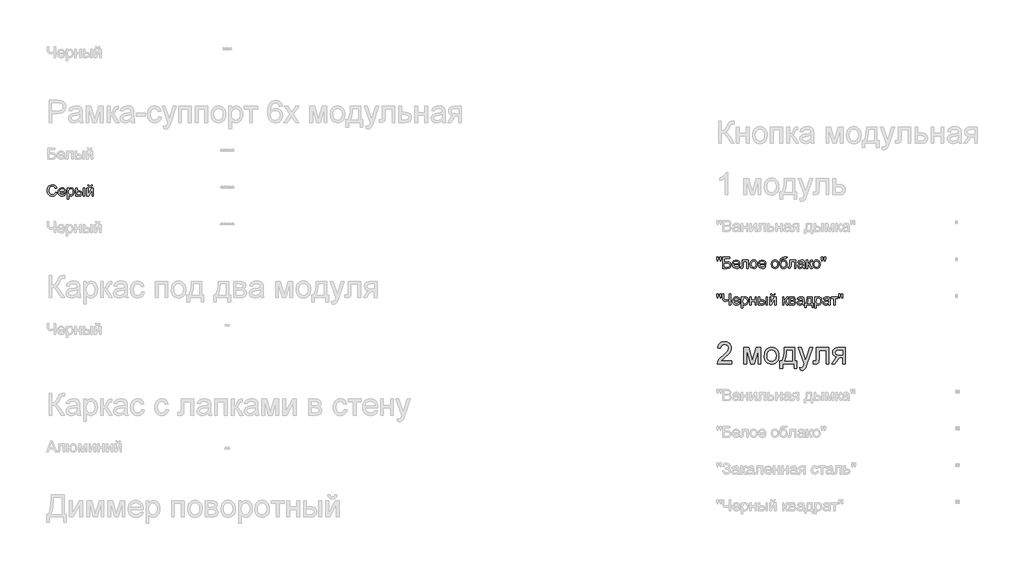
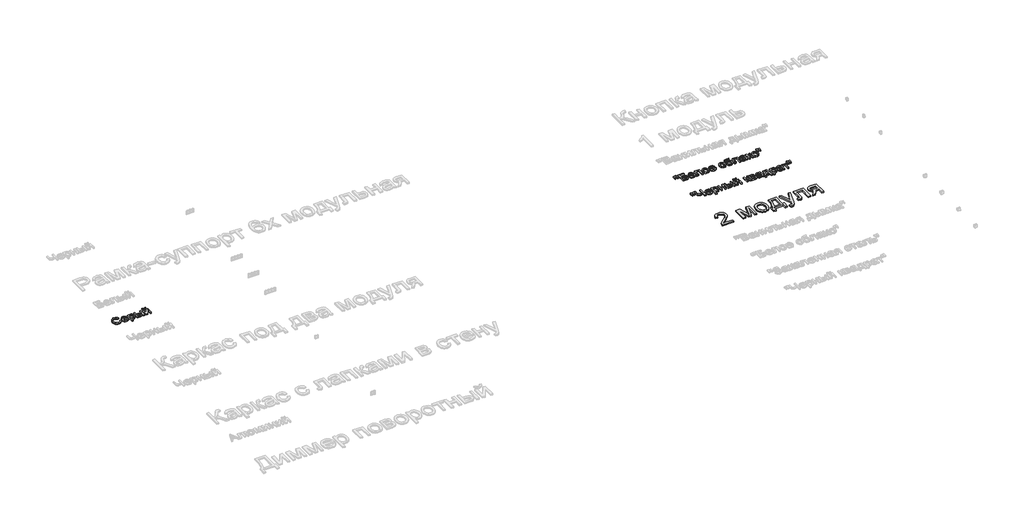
# One storey, part 41 of 168: 4 proxies.
"""IFC4 building model written with IfcOpenShell, lengths in millimetres."""

from ifc_helpers import new_model, si_unit, origin, origin_with_axes, place, context, project, spatial, polyline, outline, extrude, element, save

model = new_model("IFC4")

# Units and contexts
model_context = context("Model", 3, world=origin())
ifc_project = project(units=[si_unit("LENGTHUNIT", "METRE", prefix="MILLI")], contexts=[model_context])

# Site, building, storey
site = spatial("IfcSite", under=ifc_project)
building = spatial("IfcBuilding", under=site)
storey = spatial("IfcBuildingStorey", under=building, Name="Этаж 01", Elevation=0.0)

# Proxies
placement = place(None, origin())
element("IfcBuildingElementProxy", 1, Name="300 мм Arial 2", ObjectType="300 мм Arial 2", at=placement, inside=storey, context=model_context, shape_type="SweptSolid", body=[
    extrude(outline(polyline([(42178.0323041, -41744.967101), (42178.0323041, -41782.6382173), (41980.2589435, -41782.6382173), (41984.3056455, -41756.6657484), (41993.5946658, -41736.3678593), (42007.1879056, -41716.6769755), (42026.8511982, -41696.0663868), (42054.3503773, -41673.0093827), (42095.0013378, -41636.9017649), (42119.3919141, -41610.2487143), (42131.5872022, -41588.617253), (42135.6522983, -41567.5744029), (42131.8171285, -41548.7112536), (42120.3116191, -41533.0302836), (42102.6256922, -41522.4628732), (42080.2492698, -41518.9404031), (42056.7508074, -41522.3800998), (42038.4946633, -41532.6991898), (42026.7132424, -41549.0883326), (42022.6389493, -41570.7381881), (41984.967833, -41566.0292985), (41994.1005036, -41529.5905869), (42002.6468622, -41515.0546496), (42013.8465697, -41502.9743245), (42027.4421086, -41493.4783705), (42043.1759617, -41486.6955463), (42081.0586102, -41481.2692868), (42101.2484339, -41482.777603), (42119.2171701, -41487.3025516), (42134.9648188, -41494.8441325), (42148.4913799, -41505.4023457), (42159.3553951, -41518.1954421), (42167.1154059, -41532.4416724), (42171.7714124, -41548.1410365), (42173.3234146, -41565.2935345), (42171.6495515, -41583.3105552), (42166.6279623, -41601.0148763), (42157.7160209, -41619.0226999), (42144.3711016, -41637.9502286), (42123.0983252, -41660.5473801), (42090.4028129, -41689.5640725), (42047.0663138, -41725.800449), (42030.0701657, -41744.967101), (42178.0323041, -41744.967101)])), origin_with_axes(), (0.0, 0.0, 1.0), 20.0),
    extrude(outline(polyline([(42342.843438, -41561.320409), (42407.6642455, -41561.320409), (42457.6226204, -41738.4923779), (42511.4805445, -41561.320409), (42573.5790253, -41561.320409), (42573.5790253, -41782.6382173), (42535.907909, -41782.6382173), (42535.907909, -41604.4361788), (42481.7556793, -41782.6382173), (42432.3123392, -41782.6382173), (42380.5145543, -41595.9013165), (42380.5145543, -41782.6382173), (42342.843438, -41782.6382173), (42342.843438, -41561.320409)])), origin_with_axes(), (0.0, 0.0, 1.0), 20.0),
    extrude(outline(polyline([(42620.6679207, -41671.9793131), (42622.7050673, -41643.3167072), (42628.8165069, -41618.6180297), (42639.0022396, -41597.8832808), (42653.2622655, -41581.1124603), (42667.6188603, -41570.3932987), (42683.4653773, -41562.7367547), (42700.8018163, -41558.1428282), (42719.6281774, -41556.6115194), (42740.4112109, -41558.4762213), (42759.203083, -41564.0703269), (42776.0037939, -41573.3938362), (42790.8133435, -41586.4467493), (42802.9005663, -41602.7876076), (42811.5342969, -41621.9749529), (42816.7145352, -41644.0087852), (42818.4412813, -41668.8891044), (42815.3878608, -41706.9464968), (42806.2275991, -41735.9172039), (42791.2272107, -41757.6130446), (42770.6534101, -41773.8458376), (42746.2168486, -41783.9717895), (42719.6281774, -41787.3471068), (42698.5416413, -41785.4893027), (42679.5750252, -41779.9158905), (42662.7283291, -41770.6268701), (42648.001553, -41757.6222416), (42636.0430888, -41741.1227341), (42627.5013288, -41721.3490769), (42622.3762727, -41698.3012699), (42620.6679207, -41671.9793131)]), holes=[polyline([(42658.339037, -41671.9057367), (42662.6984387, -41705.9992006), (42675.7766436, -41730.2886094), (42695.4583303, -41744.8291452), (42719.6281774, -41749.6759905), (42743.6876599, -41744.8015541), (42763.3325584, -41730.1782448), (42776.4107634, -41705.5669393), (42780.770165, -41670.7285143), (42776.3831722, -41637.6283318), (42763.2221938, -41613.6700169), (42743.5497041, -41599.129481), (42719.6281774, -41594.2826358), (42695.4583303, -41599.1110869), (42675.7766436, -41613.5964405), (42662.6984387, -41637.8306669), (42658.339037, -41671.9057367)])]), origin_with_axes(), (0.0, 0.0, 1.0), 20.0),
    extrude(outline(polyline([(42893.7835139, -41561.320409), (43035.0502001, -41561.320409), (43035.0502001, -41744.967101), (43063.3035373, -41744.967101), (43063.3035373, -41843.8537813), (43025.632421, -41843.8537813), (43025.632421, -41782.6382173), (42870.2390662, -41782.6382173), (42870.2390662, -41843.8537813), (42832.5679499, -41843.8537813), (42832.5679499, -41744.967101), (42856.1123976, -41744.967101), (42873.2281074, -41714.0374222), (42885.2118634, -41673.1197473), (42892.0636656, -41622.2140762), (42893.7835139, -41561.320409)]), holes=[polyline([(42926.7457407, -41598.9915253), (42923.6555319, -41645.1147304), (42917.9165728, -41684.8183948), (42909.5288633, -41718.1025183), (42898.4924035, -41744.967101), (42997.3790838, -41744.967101), (42997.3790838, -41598.9915253), (42926.7457407, -41598.9915253)])]), origin_with_axes(), (0.0, 0.0, 1.0), 20.0),
    extrude(outline(polyline([(43105.6835431, -41867.398229), (43100.9746536, -41831.1250642), (43120.1045174, -41834.4360022), (43137.9835823, -41830.2789357), (43148.9464658, -41818.6906528), (43159.2471616, -41790.9523504), (43162.1902176, -41781.8288769), (43082.1390955, -41561.320409), (43121.8703509, -41561.320409), (43164.3239332, -41684.1929954), (43179.1127894, -41733.3420299), (43193.9016456, -41689.9319545), (43237.5324502, -41561.320409), (43276.9694001, -41561.320409), (43199.9349103, -41787.935718), (43179.9221298, -41837.0847526), (43169.6766162, -41852.7749197), (43158.0699393, -41863.6458326), (43144.5870641, -41869.991797), (43128.712956, -41872.1071185), (43105.6835431, -41867.398229)])), origin_with_axes(), (0.0, 0.0, 1.0), 20.0),
    extrude(outline(polyline([(43327.0013514, -41561.320409), (43496.5213748, -41561.320409), (43496.5213748, -41782.4174881), (43458.8502585, -41782.4174881), (43458.8502585, -41598.9915253), (43364.6724678, -41598.9915253), (43364.6724678, -41704.5736579), (43362.134082, -41753.2812341), (43357.3792072, -41764.3084969), (43348.1913544, -41773.8458376), (43334.2486268, -41780.4401224), (43315.2291276, -41782.6382173), (43284.6213456, -41780.7252309), (43284.6213456, -41744.967101), (43301.470341, -41744.967101), (43318.5032774, -41742.6494444), (43325.3090943, -41735.2918045), (43327.0013514, -41702.4399423), (43327.0013514, -41561.320409)])), origin_with_axes(), (0.0, 0.0, 1.0), 20.0),
    extrude(outline(polyline([(43722.5480727, -41561.320409), (43722.5480727, -41782.6382173), (43684.8769564, -41782.6382173), (43684.8769564, -41697.8782056), (43664.349141, -41697.8782056), (43636.3901094, -41702.6606715), (43625.2248908, -41713.0901261), (43610.1233349, -41734.8135579), (43580.1041641, -41782.6382173), (43536.5469359, -41782.6382173), (43574.365205, -41722.1584173), (43591.0670476, -41700.4533796), (43606.444515, -41690.8148713), (43580.6927753, -41682.9238025), (43562.5929812, -41667.9326112), (43551.8876151, -41647.993407), (43548.3191597, -41625.2582997), (43553.1935962, -41599.4697719), (43567.8169055, -41579.0523211), (43591.6740529, -41565.753387), (43624.2500036, -41561.320409), (43722.5480727, -41561.320409)]), holes=[polyline([(43684.8769564, -41598.9915253), (43635.212887, -41598.9915253), (43609.5623149, -41601.1712261), (43595.0033849, -41607.7103286), (43588.2435533, -41617.1740929), (43585.9902761, -41628.1277793), (43589.3104111, -41642.4843742), (43599.2708161, -41652.4447792), (43617.6741129, -41658.2665118), (43646.3229233, -41660.2070893), (43684.8769564, -41660.2070893), (43684.8769564, -41598.9915253)])]), origin_with_axes(), (0.0, 0.0, 1.0), 20.0),
])
element("IfcBuildingElementProxy", 2, Name="150", ObjectType="150", at=placement, inside=storey, context=model_context, shape_type="SweptSolid", body=[
    extrude(outline(polyline([(32988.5634029, -39445.9194149), (33007.398961, -39450.7754572), (32998.7077489, -39472.7242167), (32985.0685239, -39488.7592732), (32967.1526708, -39498.5679269), (32945.631574, -39501.8374781), (32923.7839821, -39499.3634717), (32906.4337475, -39491.9414525), (32893.1348133, -39479.8289378), (32883.4411228, -39463.283445), (32877.5228212, -39443.8316846), (32875.550054, -39423.0003666), (32877.7803386, -39401.0286144), (32884.4711923, -39382.0551005), (32895.2731274, -39366.6822316), (32909.8366559, -39355.5124146), (32927.1087156, -39348.7111962), (32946.0362442, -39346.4441234), (32966.6882197, -39349.3779823), (32983.7625428, -39358.179559), (32996.7257847, -39372.3062276), (33005.0445163, -39391.2153622), (32986.2089581, -39395.7035225), (32979.6790527, -39381.9677285), (32970.7579143, -39372.5453509), (32959.3351784, -39367.0960989), (32945.3004803, -39365.2796815), (32929.1228695, -39367.2938355), (32915.8331324, -39373.3362972), (32905.7485672, -39382.7724704), (32899.1864722, -39394.9677585), (32894.3856121, -39422.9635784), (32895.8065563, -39440.3643967), (32900.0693889, -39455.4107703), (32907.3350583, -39467.5278836), (32917.7645129, -39476.1409208), (32930.2679022, -39481.2866702), (32943.7553759, -39483.00192), (32959.4777326, -39480.6658693), (32972.5789302, -39473.6577173), (32982.4703573, -39462.0510404), (32988.5634029, -39445.9194149)])), origin_with_axes(), (0.0, 0.0, 1.0), 20.0),
    extrude(outline(polyline([(33108.4193569, -39466.5208066), (33126.8870331, -39468.8752514), (33120.2329675, -39482.7903878), (33109.6149734, -39493.1922513), (33095.2721741, -39499.6761714), (33077.4436929, -39501.8374781), (33055.3431821, -39498.1080744), (33038.3378368, -39486.9198632), (33027.494515, -39468.9994115), (33023.8800744, -39445.0732863), (33027.5313032, -39420.3424192), (33038.4849896, -39401.8471519), (33055.2604086, -39390.3140513), (33076.3768351, -39386.4696845), (33096.8356726, -39390.3048543), (33113.1834288, -39401.8103637), (33123.9025904, -39420.2688428), (33127.4756443, -39444.9629217), (33127.3652797, -39450.0396932), (33042.7156326, -39450.0396932), (33045.9759868, -39464.1387707), (33053.5497573, -39474.5038459), (33064.4804511, -39480.8774015), (33077.8115749, -39483.00192), (33096.2792511, -39479.0655826), (33108.4193569, -39466.5208066)]), holes=[polyline([(33042.7156326, -39431.2041351), (33108.6400861, -39431.2041351), (33106.0925033, -39421.2529271), (33101.0985052, -39414.1344105), (33090.1172277, -39407.5125346), (33076.3032587, -39405.3052426), (33063.6067314, -39407.0664777), (33053.1082989, -39412.3501828), (33045.8104399, -39420.586141), (33042.7156326, -39431.2041351)])]), origin_with_axes(), (0.0, 0.0, 1.0), 20.0),
    extrude(outline(polyline([(33146.3112024, -39541.8630392), (33146.3112024, -39388.8241292), (33165.1467606, -39388.8241292), (33165.1467606, -39407.2918054), (33178.1697832, -39391.6752147), (33195.7545426, -39386.4696845), (33208.4924567, -39388.2907003), (33219.6300841, -39393.753748), (33228.6983752, -39402.5277335), (33235.2282807, -39414.2815633), (33240.4889932, -39443.3074527), (33239.0036696, -39459.4160856), (33234.547699, -39473.8232642), (33227.2636355, -39485.7978232), (33217.2940334, -39494.6085969), (33205.6827579, -39500.0302578), (33193.4736742, -39501.8374781), (33177.0845313, -39496.9998299), (33165.1467606, -39484.7677536), (33165.1467606, -39541.8630392), (33146.3112024, -39541.8630392)]), holes=[polyline([(33165.1467606, -39445.0364981), (33167.1839071, -39461.9222817), (33173.2953468, -39473.7312937), (33182.3130542, -39480.6842634), (33193.069004, -39483.00192), (33203.9996978, -39480.60149), (33213.2473314, -39473.4001999), (33219.5519091, -39461.1589265), (33221.653435, -39443.6385465), (33219.6024929, -39426.8447334), (33213.4496665, -39414.8701745), (33204.4457547, -39407.6964756), (33193.8415562, -39405.3052426), (33183.195971, -39407.8482269), (33173.8471698, -39415.4771798), (33167.3218629, -39427.9529779), (33165.1467606, -39445.0364981)])]), origin_with_axes(), (0.0, 0.0, 1.0), 20.0),
    extrude(outline(polyline([(33365.2745659, -39388.8241292), (33384.1101241, -39388.8241292), (33384.1101241, -39499.4830334), (33365.2745659, -39499.4830334), (33365.2745659, -39388.8241292)])), origin_with_axes(), (0.0, 0.0, 1.0), 20.0),
    extrude(outline(polyline([(33261.6789961, -39388.8241292), (33280.5145543, -39388.8241292), (33280.5145543, -39428.8496903), (33303.8014846, -39428.8496903), (33323.9292282, -39431.2087336), (33338.8422446, -39438.2858635), (33348.0714841, -39449.5108629), (33351.1478973, -39464.3135146), (33348.5681248, -39477.7917912), (33340.8288074, -39489.1639434), (33327.4241072, -39496.9032609), (33307.8481865, -39499.4830334), (33261.6789961, -39499.4830334), (33261.6789961, -39388.8241292)]), holes=[polyline([(33280.5145543, -39480.6474752), (33299.8651472, -39480.6474752), (33324.8443347, -39476.6927438), (33330.4453381, -39471.6297678), (33332.3123392, -39464.3503028), (33326.7757152, -39452.76202), (33317.8959635, -39448.9544413), (33302.3299566, -39447.6852485), (33280.5145543, -39447.6852485), (33280.5145543, -39480.6474752)])]), origin_with_axes(), (0.0, 0.0, 1.0), 20.0),
    extrude(outline(polyline([(33473.5790253, -39348.7985681), (33487.7056939, -39348.7985681), (33484.666069, -39360.8604991), (33478.5638264, -39369.7494478), (33469.6748777, -39375.226291), (33458.2751343, -39377.0519054), (33445.9051022, -39375.2400866), (33436.3125792, -39369.8046301), (33429.7550827, -39360.9294769), (33426.4901299, -39348.7985681), (33440.6167986, -39348.7985681), (33445.9142993, -39359.4119637), (33456.5828771, -39362.9252368), (33468.2815246, -39359.5223283), (33473.5790253, -39348.7985681)])), origin_with_axes(), (0.0, 0.0, 1.0), 20.0),
    extrude(outline(polyline([(33412.3634613, -39388.8241292), (33431.1990195, -39388.8241292), (33431.1990195, -39473.2162589), (33477.4785745, -39388.8241292), (33501.8323626, -39388.8241292), (33501.8323626, -39499.4830334), (33482.9968044, -39499.4830334), (33482.9968044, -39415.6059385), (33437.011555, -39499.4830334), (33412.3634613, -39499.4830334), (33412.3634613, -39388.8241292)])), origin_with_axes(), (0.0, 0.0, 1.0), 20.0),
])
element("IfcBuildingElementProxy", 3, Name="150", ObjectType="150", at=placement, inside=storey, context=model_context, shape_type="SweptSolid", body=[
    extrude(outline(polyline([(41980.1485789, -40386.1059817), (41975.550054, -40357.0065159), (41975.550054, -40331.9537521), (41994.3856121, -40331.9537521), (41994.3856121, -40357.0065159), (41990.2653338, -40386.1059817), (41980.1485789, -40386.1059817)])), origin_with_axes(), (0.0, 0.0, 1.0), 20.0),
    extrude(outline(polyline([(42017.7093306, -40386.1059817), (42013.2211703, -40357.0065159), (42013.2211703, -40331.9537521), (42032.0567284, -40331.9537521), (42032.0567284, -40357.0065159), (42027.6421445, -40386.1059817), (42017.7093306, -40386.1059817)])), origin_with_axes(), (0.0, 0.0, 1.0), 20.0),
    extrude(outline(polyline([(42057.9556209, -40331.9537521), (42152.1334117, -40331.9537521), (42152.1334117, -40350.7893102), (42076.791179, -40350.7893102), (42076.791179, -40395.5237608), (42112.0710624, -40395.5237608), (42143.157091, -40399.3497336), (42153.5589544, -40404.8771606), (42161.6615553, -40413.807496), (42166.8762826, -40425.3038083), (42168.614525, -40438.5291661), (42163.6665122, -40459.9950805), (42148.8960501, -40476.310647), (42135.6247071, -40481.0563247), (42115.4555767, -40482.6382173), (42057.9556209, -40482.6382173), (42057.9556209, -40331.9537521)]), holes=[polyline([(42076.791179, -40463.8026591), (42117.1478339, -40463.8026591), (42131.4124583, -40462.2483577), (42141.6119866, -40457.5854534), (42147.7372218, -40449.8139463), (42149.7789669, -40438.9338363), (42145.1068655, -40424.1817682), (42132.102237, -40416.3090936), (42103.7201411, -40414.359319), (42076.791179, -40414.359319), (42076.791179, -40463.8026591)])]), origin_with_axes(), (0.0, 0.0, 1.0), 20.0),
    extrude(outline(polyline([(42269.6349209, -40449.6759905), (42288.1025971, -40452.0304353), (42281.4485315, -40465.9455717), (42270.8305374, -40476.3474352), (42256.4877381, -40482.8313553), (42238.6592569, -40484.992662), (42216.5587461, -40481.2632583), (42199.5534008, -40470.0750471), (42188.710079, -40452.1545955), (42185.0956384, -40428.2284702), (42188.7468672, -40403.4976031), (42199.7005536, -40385.0023358), (42216.4759726, -40373.4692352), (42237.5923991, -40369.6248684), (42258.0512366, -40373.4600382), (42274.3989927, -40384.9655476), (42285.1181544, -40403.4240267), (42288.6912083, -40428.1181056), (42288.5808437, -40433.1948771), (42203.9311966, -40433.1948771), (42207.1915508, -40447.2939546), (42214.7653213, -40457.6590298), (42225.6960151, -40464.0325854), (42239.0271389, -40466.1571039), (42257.4948151, -40462.2207665), (42269.6349209, -40449.6759905)]), holes=[polyline([(42203.9311966, -40414.359319), (42269.8556501, -40414.359319), (42267.3080673, -40404.408111), (42262.3140692, -40397.2895944), (42251.3327917, -40390.6677185), (42237.5188227, -40388.4604265), (42224.8222954, -40390.2216616), (42214.3238629, -40395.5053667), (42207.0260039, -40403.7413249), (42203.9311966, -40414.359319)])]), origin_with_axes(), (0.0, 0.0, 1.0), 20.0),
    extrude(outline(polyline([(42316.9445455, -40371.9793131), (42401.7045572, -40371.9793131), (42401.7045572, -40482.5278527), (42382.868999, -40482.5278527), (42382.868999, -40390.8148713), (42335.7801036, -40390.8148713), (42335.7801036, -40443.6059376), (42334.5109108, -40467.9597257), (42327.539547, -40478.2420274), (42311.0584336, -40482.6382173), (42295.7545426, -40481.6817241), (42295.7545426, -40463.8026591), (42304.1790403, -40463.8026591), (42312.6955084, -40462.6438308), (42316.0984169, -40458.9650109), (42316.9445455, -40442.5390798), (42316.9445455, -40371.9793131)])), origin_with_axes(), (0.0, 0.0, 1.0), 20.0),
    extrude(outline(polyline([(42425.2490049, -40427.3087652), (42429.323298, -40400.6281235), (42441.5461773, -40381.8753388), (42456.6477332, -40372.687486), (42474.7291332, -40369.6248684), (42494.516586, -40373.3542721), (42510.3217163, -40384.5424833), (42520.6821929, -40402.3065851), (42524.1356852, -40425.7636608), (42522.6089749, -40444.792357), (42518.0288441, -40459.2777106), (42510.5286499, -40470.1256309), (42500.2417496, -40478.2420274), (42488.0234688, -40483.3050034), (42474.7291332, -40484.992662), (42454.7025571, -40481.2770539), (42438.915821, -40470.1302294), (42428.6657089, -40451.9936471), (42425.2490049, -40427.3087652)]), holes=[polyline([(42444.084563, -40427.271977), (42446.2642638, -40444.318709), (42452.8033663, -40456.4634133), (42462.6442097, -40463.7336813), (42474.7291332, -40466.1571039), (42486.7588745, -40463.7198857), (42496.5813237, -40456.408231), (42503.1204262, -40444.1025783), (42505.300127, -40426.6833658), (42503.1066306, -40410.1332746), (42496.5261414, -40398.1541171), (42486.6898966, -40390.8838492), (42474.7291332, -40388.4604265), (42462.6442097, -40390.8746521), (42452.8033663, -40398.1173289), (42446.2642638, -40410.2344421), (42444.084563, -40427.271977)])]), origin_with_axes(), (0.0, 0.0, 1.0), 20.0),
    extrude(outline(polyline([(42622.8016363, -40449.6759905), (42641.2693124, -40452.0304353), (42634.6152469, -40465.9455717), (42623.9972528, -40476.3474352), (42609.6544535, -40482.8313553), (42591.8259723, -40484.992662), (42569.7254614, -40481.2632583), (42552.7201162, -40470.0750471), (42541.8767944, -40452.1545955), (42538.2623538, -40428.2284702), (42541.9135826, -40403.4976031), (42552.867269, -40385.0023358), (42569.642688, -40373.4692352), (42590.7591145, -40369.6248684), (42611.217952, -40373.4600382), (42627.5657081, -40384.9655476), (42638.2848698, -40403.4240267), (42641.8579236, -40428.1181056), (42641.747559, -40433.1948771), (42557.0979119, -40433.1948771), (42560.3582661, -40447.2939546), (42567.9320367, -40457.6590298), (42578.8627305, -40464.0325854), (42592.1938543, -40466.1571039), (42610.6615304, -40462.2207665), (42622.8016363, -40449.6759905)]), holes=[polyline([(42557.0979119, -40414.359319), (42623.0223655, -40414.359319), (42620.4747827, -40404.408111), (42615.4807846, -40397.2895944), (42604.499507, -40390.6677185), (42590.6855381, -40388.4604265), (42577.9890107, -40390.2216616), (42567.4905783, -40395.5053667), (42560.1927192, -40403.7413249), (42557.0979119, -40414.359319)])]), origin_with_axes(), (0.0, 0.0, 1.0), 20.0),
    extrude(outline(polyline([(42714.8457115, -40427.3087652), (42718.9200046, -40400.6281235), (42731.1428839, -40381.8753388), (42746.2444398, -40372.687486), (42764.3258398, -40369.6248684), (42784.1132926, -40373.3542721), (42799.9184229, -40384.5424833), (42810.2788995, -40402.3065851), (42813.7323918, -40425.7636608), (42812.2056815, -40444.792357), (42807.6255507, -40459.2777106), (42800.1253565, -40470.1256309), (42789.8384562, -40478.2420274), (42777.6201754, -40483.3050034), (42764.3258398, -40484.992662), (42744.2992637, -40481.2770539), (42728.5125276, -40470.1302294), (42718.2624155, -40451.9936471), (42714.8457115, -40427.3087652)]), holes=[polyline([(42733.6812696, -40427.271977), (42735.8609704, -40444.318709), (42742.4000729, -40456.4634133), (42752.2409163, -40463.7336813), (42764.3258398, -40466.1571039), (42776.3555811, -40463.7198857), (42786.1780303, -40456.408231), (42792.7171328, -40444.1025783), (42794.8968336, -40426.6833658), (42792.7033372, -40410.1332746), (42786.122848, -40398.1541171), (42776.2866032, -40390.8838492), (42764.3258398, -40388.4604265), (42752.2409163, -40390.8746521), (42742.4000729, -40398.1173289), (42735.8609704, -40410.2344421), (42733.6812696, -40427.271977)])]), origin_with_axes(), (0.0, 0.0, 1.0), 20.0),
    extrude(outline(polyline([(42912.6190721, -40329.5993073), (42929.1001855, -40329.5993073), (42924.2441431, -40344.296193), (42914.6424231, -40349.6120878), (42891.576222, -40350.7893102), (42860.5085875, -40355.1303178), (42853.3808738, -40360.7773064), (42848.5892108, -40369.0362572), (42844.560903, -40393.6475626), (42860.8764695, -40375.6213449), (42870.7954878, -40371.1239875), (42881.9009255, -40369.6248684), (42901.4998388, -40373.4370455), (42917.401538, -40384.8735771), (42927.9413572, -40402.8124229), (42931.4546302, -40426.1315428), (42929.7117893, -40444.1117753), (42924.4832664, -40458.5419466), (42907.9469707, -40478.0948746), (42896.6529935, -40483.2682152), (42881.9009255, -40484.992662), (42864.9001788, -40482.7715745), (42852.1576662, -40476.1083119), (42842.7812738, -40465.9823599), (42835.8788879, -40453.3732046), (42831.6298508, -40434.3858951), (42830.2135052, -40405.1254809), (42833.786559, -40368.9856734), (42844.5057207, -40346.9449434), (42862.6377045, -40335.7015499), (42888.449225, -40331.9537521), (42909.4184987, -40331.5306878), (42912.6190721, -40329.5993073)]), holes=[polyline([(42912.6190721, -40425.5429316), (42910.577327, -40410.7218857), (42904.4520918, -40398.8530929), (42894.6112484, -40391.0585931), (42881.4226789, -40388.4604265), (42867.6730893, -40391.2057459), (42857.473561, -40399.4417041), (42851.1551877, -40412.2669901), (42849.0490633, -40428.7802932), (42851.3759169, -40444.7877585), (42858.3564778, -40456.5369897), (42868.7491442, -40463.7520754), (42881.3123143, -40466.1571039), (42893.9398638, -40463.3749963), (42903.937057, -40455.0286735), (42910.4485683, -40442.0930229), (42912.6190721, -40425.5429316)])]), origin_with_axes(), (0.0, 0.0, 1.0), 20.0),
    extrude(outline(polyline([(42964.416857, -40371.9793131), (43049.1768687, -40371.9793131), (43049.1768687, -40482.5278527), (43030.3413105, -40482.5278527), (43030.3413105, -40390.8148713), (42983.2524152, -40390.8148713), (42983.2524152, -40443.6059376), (42981.9832223, -40467.9597257), (42975.0118585, -40478.2420274), (42958.5307451, -40482.6382173), (42943.2268541, -40481.6817241), (42943.2268541, -40463.8026591), (42951.6513518, -40463.8026591), (42960.16782, -40462.6438308), (42963.5707284, -40458.9650109), (42964.416857, -40442.5390798), (42964.416857, -40371.9793131)])), origin_with_axes(), (0.0, 0.0, 1.0), 20.0),
    extrude(outline(polyline([(43148.063549, -40468.5115487), (43129.7982079, -40481.2770539), (43109.6198805, -40484.992662), (43093.8791296, -40482.7577789), (43082.2678542, -40476.0531296), (43075.1079508, -40465.8719954), (43072.7213164, -40453.2076577), (43076.3265599, -40438.3084369), (43085.7995213, -40427.4927062), (43098.9880908, -40421.3122887), (43115.2852632, -40418.4795973), (43147.9531844, -40412.0048742), (43148.063549, -40407.8110195), (43146.766765, -40399.4049159), (43142.8764129, -40393.90508), (43134.1760037, -40389.8215899), (43122.0542919, -40388.4604265), (43102.9980046, -40392.0840642), (43093.9113193, -40404.9415399), (43075.0757612, -40402.5870951), (43083.2243473, -40384.1929954), (43099.6318843, -40373.4140529), (43124.4823131, -40369.6248684), (43147.3093909, -40372.9725945), (43160.2036548, -40381.3786981), (43165.9794022, -40394.1625974), (43166.8991071, -40410.6437108), (43166.8991071, -40434.0777939), (43167.8556003, -40466.8008974), (43171.6079967, -40482.6382173), (43152.7724385, -40482.6382173), (43148.063549, -40468.5115487)]), holes=[polyline([(43148.063549, -40430.8404324), (43117.6764962, -40436.6161797), (43101.4712943, -40439.6696002), (43094.1320485, -40444.6360072), (43091.5568745, -40451.8832825), (43097.167075, -40462.0736138), (43113.6297942, -40466.1571039), (43132.6860816, -40461.6505495), (43144.9733402, -40450.7428483), (43147.9531844, -40436.1747213), (43148.063549, -40430.8404324)])]), origin_with_axes(), (0.0, 0.0, 1.0), 20.0),
    extrude(outline(polyline([(43192.7979996, -40371.9793131), (43211.6335578, -40371.9793131), (43211.6335578, -40419.0682085), (43224.2519102, -40415.6836942), (43234.5893943, -40395.9652192), (43243.1794388, -40378.9506769), (43250.7578079, -40373.4140529), (43264.5349887, -40371.9793131), (43268.1402322, -40371.9793131), (43268.1402322, -40390.9252359), (43263.0634607, -40390.8148713), (43253.8664108, -40392.8014341), (43247.3916877, -40405.1990573), (43239.7949245, -40418.608356), (43229.1447407, -40425.1750496), (43241.0273292, -40432.5050984), (43252.6891884, -40447.9469451), (43272.8491218, -40482.6382173), (43251.4383896, -40482.6382173), (43231.6831265, -40448.6827091), (43221.7503126, -40434.3169172), (43211.6335578, -40430.8404324), (43211.6335578, -40482.6382173), (43192.7979996, -40482.6382173), (43192.7979996, -40371.9793131)])), origin_with_axes(), (0.0, 0.0, 1.0), 20.0),
    extrude(outline(polyline([(43279.9124561, -40427.3087652), (43283.9867492, -40400.6281235), (43296.2096285, -40381.8753388), (43311.3111844, -40372.687486), (43329.3925844, -40369.6248684), (43349.1800372, -40373.3542721), (43364.9851674, -40384.5424833), (43375.3456441, -40402.3065851), (43378.7991364, -40425.7636608), (43377.2724261, -40444.792357), (43372.6922952, -40459.2777106), (43365.1921011, -40470.1256309), (43354.9052008, -40478.2420274), (43342.68692, -40483.3050034), (43329.3925844, -40484.992662), (43309.3660083, -40481.2770539), (43293.5792722, -40470.1302294), (43283.3291601, -40451.9936471), (43279.9124561, -40427.3087652)]), holes=[polyline([(43298.7480142, -40427.271977), (43300.927715, -40444.318709), (43307.4668175, -40456.4634133), (43317.3076609, -40463.7336813), (43329.3925844, -40466.1571039), (43341.4223257, -40463.7198857), (43351.2447749, -40456.408231), (43357.7838774, -40444.1025783), (43359.9635782, -40426.6833658), (43357.7700818, -40410.1332746), (43351.1895926, -40398.1541171), (43341.3533478, -40390.8838492), (43329.3925844, -40388.4604265), (43317.3076609, -40390.8746521), (43307.4668175, -40398.1173289), (43300.927715, -40410.2344421), (43298.7480142, -40427.271977)])]), origin_with_axes(), (0.0, 0.0, 1.0), 20.0),
    extrude(outline(polyline([(43399.8787747, -40386.1059817), (43395.2802498, -40357.0065159), (43395.2802498, -40331.9537521), (43414.1158079, -40331.9537521), (43414.1158079, -40357.0065159), (43409.9955296, -40386.1059817), (43399.8787747, -40386.1059817)])), origin_with_axes(), (0.0, 0.0, 1.0), 20.0),
    extrude(outline(polyline([(43437.4395264, -40386.1059817), (43432.9513661, -40357.0065159), (43432.9513661, -40331.9537521), (43451.7869242, -40331.9537521), (43451.7869242, -40357.0065159), (43447.3723403, -40386.1059817), (43437.4395264, -40386.1059817)])), origin_with_axes(), (0.0, 0.0, 1.0), 20.0),
])
element("IfcBuildingElementProxy", 4, Name="150", ObjectType="150", at=placement, inside=storey, context=model_context, shape_type="SweptSolid", body=[
    extrude(outline(polyline([(41980.1485789, -40886.1059817), (41975.550054, -40857.0065159), (41975.550054, -40831.9537521), (41994.3856121, -40831.9537521), (41994.3856121, -40857.0065159), (41990.2653338, -40886.1059817), (41980.1485789, -40886.1059817)])), origin_with_axes(), (0.0, 0.0, 1.0), 20.0),
    extrude(outline(polyline([(42017.7093306, -40886.1059817), (42013.2211703, -40857.0065159), (42013.2211703, -40831.9537521), (42032.0567284, -40831.9537521), (42032.0567284, -40857.0065159), (42027.6421445, -40886.1059817), (42017.7093306, -40886.1059817)])), origin_with_axes(), (0.0, 0.0, 1.0), 20.0),
    extrude(outline(polyline([(42163.9056355, -40982.6382173), (42145.0700773, -40982.6382173), (42145.0700773, -40922.3055701), (42120.0908899, -40930.4725504), (42098.4226404, -40933.1948771), (42083.7395502, -40931.3324745), (42070.886673, -40925.7452667), (42060.926268, -40917.2931779), (42054.9205944, -40906.8361322), (42050.8922866, -40876.8353555), (42050.8922866, -40831.9537521), (42069.7278447, -40831.9537521), (42069.7278447, -40874.2969697), (42071.990319, -40894.6638367), (42078.7777418, -40906.615403), (42088.7381468, -40912.42334), (42100.5195677, -40914.359319), (42122.2521966, -40912.0232683), (42145.0700773, -40905.0151163), (42145.0700773, -40831.9537521), (42163.9056355, -40831.9537521), (42163.9056355, -40982.6382173)])), origin_with_axes(), (0.0, 0.0, 1.0), 20.0),
    extrude(outline(polyline([(42271.9893657, -40949.6759905), (42290.4570418, -40952.0304353), (42283.8029762, -40965.9455717), (42273.1849822, -40976.3474352), (42258.8421829, -40982.8313553), (42241.0137017, -40984.992662), (42218.9131908, -40981.2632583), (42201.9078456, -40970.0750471), (42191.0645238, -40952.1545955), (42187.4500832, -40928.2284702), (42191.101312, -40903.4976031), (42202.0549984, -40885.0023358), (42218.8304174, -40873.4692352), (42239.9468439, -40869.6248684), (42260.4056814, -40873.4600382), (42276.7534375, -40884.9655476), (42287.4725992, -40903.4240267), (42291.045653, -40928.1181056), (42290.9352884, -40933.1948771), (42206.2856413, -40933.1948771), (42209.5459955, -40947.2939546), (42217.1197661, -40957.6590298), (42228.0504599, -40964.0325854), (42241.3815837, -40966.1571039), (42259.8492598, -40962.2207665), (42271.9893657, -40949.6759905)]), holes=[polyline([(42206.2856413, -40914.359319), (42272.2100949, -40914.359319), (42269.6625121, -40904.408111), (42264.668514, -40897.2895944), (42253.6872364, -40890.6677185), (42239.8732675, -40888.4604265), (42227.1767401, -40890.2216616), (42216.6783077, -40895.5053667), (42209.3804486, -40903.7413249), (42206.2856413, -40914.359319)])]), origin_with_axes(), (0.0, 0.0, 1.0), 20.0),
    extrude(outline(polyline([(42309.8812112, -41025.0182231), (42309.8812112, -40871.9793131), (42328.7167693, -40871.9793131), (42328.7167693, -40890.4469893), (42341.739792, -40874.8303986), (42359.3245513, -40869.6248684), (42372.0624654, -40871.4458842), (42383.2000928, -40876.9089319), (42392.268384, -40885.6829175), (42398.7982894, -40897.4367472), (42404.0590019, -40926.4626366), (42402.5736784, -40942.5712695), (42398.1177077, -40956.9784481), (42390.8336442, -40968.9530071), (42380.8640422, -40977.7637808), (42369.2527667, -40983.1854417), (42357.043683, -40984.992662), (42340.6545401, -40980.1550138), (42328.7167693, -40967.9229375), (42328.7167693, -41025.0182231), (42309.8812112, -41025.0182231)]), holes=[polyline([(42328.7167693, -40928.191682), (42330.7539159, -40945.0774656), (42336.8653555, -40956.8864776), (42345.8830629, -40963.8394473), (42356.6390128, -40966.1571039), (42367.5697066, -40963.7566739), (42376.8173402, -40956.5553838), (42383.1219179, -40944.3141104), (42385.2234438, -40926.7937304), (42383.1725017, -40909.9999173), (42377.0196753, -40898.0253584), (42368.0157635, -40890.8516595), (42357.411565, -40888.4604265), (42346.7659797, -40891.0034108), (42337.4171785, -40898.6323637), (42330.8918716, -40911.1081618), (42328.7167693, -40928.191682)])]), origin_with_axes(), (0.0, 0.0, 1.0), 20.0),
    extrude(outline(polyline([(42425.2490049, -40871.9793131), (42444.084563, -40871.9793131), (42444.084563, -40914.359319), (42493.5279032, -40914.359319), (42493.5279032, -40871.9793131), (42512.3634613, -40871.9793131), (42512.3634613, -40982.6382173), (42493.5279032, -40982.6382173), (42493.5279032, -40933.1948771), (42444.084563, -40933.1948771), (42444.084563, -40982.6382173), (42425.2490049, -40982.6382173), (42425.2490049, -40871.9793131)])), origin_with_axes(), (0.0, 0.0, 1.0), 20.0),
    extrude(outline(polyline([(42644.2123684, -40871.9793131), (42663.0479266, -40871.9793131), (42663.0479266, -40982.6382173), (42644.2123684, -40982.6382173), (42644.2123684, -40871.9793131)])), origin_with_axes(), (0.0, 0.0, 1.0), 20.0),
    extrude(outline(polyline([(42540.6167986, -40871.9793131), (42559.4523567, -40871.9793131), (42559.4523567, -40912.0048742), (42582.739287, -40912.0048742), (42602.8670307, -40914.3639175), (42617.780047, -40921.4410474), (42627.0092866, -40932.6660468), (42630.0856998, -40947.4686985), (42627.5059273, -40960.9469751), (42619.7666098, -40972.3191273), (42606.3619096, -40980.0584448), (42586.785989, -40982.6382173), (42540.6167986, -40982.6382173), (42540.6167986, -40871.9793131)]), holes=[polyline([(42559.4523567, -40963.8026591), (42578.8029497, -40963.8026591), (42603.7821371, -40959.8479277), (42609.3831405, -40954.7849517), (42611.2501416, -40947.5054867), (42605.7135176, -40935.9172039), (42596.8337659, -40932.1096252), (42581.267759, -40930.8404324), (42559.4523567, -40930.8404324), (42559.4523567, -40963.8026591)])]), origin_with_axes(), (0.0, 0.0, 1.0), 20.0),
    extrude(outline(polyline([(42691.3012638, -40871.9793131), (42710.1368219, -40871.9793131), (42710.1368219, -40956.3714428), (42756.4163769, -40871.9793131), (42780.770165, -40871.9793131), (42780.770165, -40982.6382173), (42761.9346069, -40982.6382173), (42761.9346069, -40898.7611224), (42715.9493575, -40982.6382173), (42691.3012638, -40982.6382173), (42691.3012638, -40871.9793131)])), origin_with_axes(), (0.0, 0.0, 1.0), 20.0),
    extrude(outline(polyline([(42752.5168278, -40831.9537521), (42766.6434964, -40831.9537521), (42763.6038714, -40844.015683), (42757.5016288, -40852.9046317), (42748.6126801, -40858.3814749), (42737.2129368, -40860.2070893), (42724.8429047, -40858.3952705), (42715.2503817, -40852.959814), (42708.6928851, -40844.0846608), (42705.4279324, -40831.9537521), (42719.554601, -40831.9537521), (42724.8521017, -40842.5671476), (42735.5206796, -40846.0804207), (42747.219327, -40842.6775122), (42752.5168278, -40831.9537521)])), origin_with_axes(), (0.0, 0.0, 1.0), 20.0),
    extrude(outline(polyline([(42867.8846215, -40871.9793131), (42886.7201796, -40871.9793131), (42886.7201796, -40919.0682085), (42899.3385321, -40915.6836942), (42909.6760161, -40895.9652192), (42918.2660607, -40878.9506769), (42925.8444298, -40873.4140529), (42939.6216105, -40871.9793131), (42943.2268541, -40871.9793131), (42943.2268541, -40890.9252359), (42938.1500825, -40890.8148713), (42928.9530327, -40892.8014341), (42922.4783096, -40905.1990573), (42914.8815464, -40918.608356), (42904.2313626, -40925.1750496), (42916.113951, -40932.5050984), (42927.7758103, -40947.9469451), (42947.9357436, -40982.6382173), (42926.5250115, -40982.6382173), (42906.7697484, -40948.6827091), (42896.8369345, -40934.3169172), (42886.7201796, -40930.8404324), (42886.7201796, -40982.6382173), (42867.8846215, -40982.6382173), (42867.8846215, -40871.9793131)])), origin_with_axes(), (0.0, 0.0, 1.0), 20.0),
    extrude(outline(polyline([(42959.7079675, -40871.9793131), (43001.2050565, -40871.9793131), (43023.9585579, -40874.4993048), (43036.7608514, -40883.7331429), (43042.1135344, -40899.8279802), (43038.8761728, -40912.9061851), (43029.1273, -40922.2319937), (43041.7824406, -40932.440719), (43046.8224239, -40950.1910253), (43043.6310476, -40964.5476202), (43036.0434815, -40974.655178), (43024.0321343, -40980.6424575), (43007.569415, -40982.6382173), (42959.7079675, -40982.6382173), (42959.7079675, -40871.9793131)]), holes=[polyline([(42978.5435256, -40914.359319), (42997.1583546, -40914.359319), (43012.5174279, -40913.4028258), (43019.9854324, -40909.576853), (43023.2779762, -40902.6606715), (43021.8340394, -40897.0412741), (43017.5022289, -40893.4268335), (42997.7469658, -40890.8148713), (42978.5435256, -40890.8148713), (42978.5435256, -40914.359319)]), polyline([(42978.5435256, -40963.8026591), (43001.6465149, -40963.8026591), (43022.137542, -40960.3997507), (43026.377382, -40955.759839), (43027.9868658, -40948.6459209), (43024.7678983, -40939.5776297), (43016.3801888, -40934.2985231), (42999.8071049, -40933.1948771), (42978.5435256, -40933.1948771), (42978.5435256, -40963.8026591)])]), origin_with_axes(), (0.0, 0.0, 1.0), 20.0),
    extrude(outline(polyline([(43141.0002147, -40968.5115487), (43122.7348736, -40981.2770539), (43102.5565462, -40984.992662), (43086.8157953, -40982.7577789), (43075.2045198, -40976.0531296), (43068.0446165, -40965.8719954), (43065.6579821, -40953.2076577), (43069.2632256, -40938.3084369), (43078.736187, -40927.4927062), (43091.9247565, -40921.3122887), (43108.2219289, -40918.4795973), (43140.8898501, -40912.0048742), (43141.0002147, -40907.8110195), (43139.7034307, -40899.4049159), (43135.8130786, -40893.90508), (43127.1126694, -40889.8215899), (43114.9909576, -40888.4604265), (43095.9346703, -40892.0840642), (43086.847985, -40904.9415399), (43068.0124268, -40902.5870951), (43076.161013, -40884.1929954), (43092.56855, -40873.4140529), (43117.4189788, -40869.6248684), (43140.2460566, -40872.9725945), (43153.1403205, -40881.3786981), (43158.9160679, -40894.1625974), (43159.8357728, -40910.6437108), (43159.8357728, -40934.0777939), (43160.792266, -40966.8008974), (43164.5446624, -40982.6382173), (43145.7091042, -40982.6382173), (43141.0002147, -40968.5115487)]), holes=[polyline([(43141.0002147, -40930.8404324), (43110.6131619, -40936.6161797), (43094.40796, -40939.6696002), (43087.0687142, -40944.6360072), (43084.4935402, -40951.8832825), (43090.1037407, -40962.0736138), (43106.5664599, -40966.1571039), (43125.6227473, -40961.6505495), (43137.9100059, -40950.7428483), (43140.8898501, -40936.1747213), (43141.0002147, -40930.8404324)])]), origin_with_axes(), (0.0, 0.0, 1.0), 20.0),
    extrude(outline(polyline([(43202.2157787, -40871.9793131), (43272.8491218, -40871.9793131), (43272.8491218, -40963.8026591), (43286.9757904, -40963.8026591), (43286.9757904, -41013.2459993), (43268.1402322, -41013.2459993), (43268.1402322, -40982.6382173), (43190.4435548, -40982.6382173), (43190.4435548, -41013.2459993), (43171.6079967, -41013.2459993), (43171.6079967, -40963.8026591), (43183.3802205, -40963.8026591), (43191.9380754, -40948.3378198), (43197.9299534, -40927.8789823), (43202.2157787, -40871.9793131)]), holes=[polyline([(43218.6968921, -40890.8148713), (43214.2823081, -40933.728306), (43204.5702235, -40963.8026591), (43254.0135636, -40963.8026591), (43254.0135636, -40890.8148713), (43218.6968921, -40890.8148713)])]), origin_with_axes(), (0.0, 0.0, 1.0), 20.0),
    extrude(outline(polyline([(43308.1657933, -41025.0182231), (43308.1657933, -40871.9793131), (43327.0013514, -40871.9793131), (43327.0013514, -40890.4469893), (43340.0243741, -40874.8303986), (43357.6091334, -40869.6248684), (43370.3470475, -40871.4458842), (43381.4846749, -40876.9089319), (43390.5529661, -40885.6829175), (43397.0828715, -40897.4367472), (43402.3435841, -40926.4626366), (43400.8582605, -40942.5712695), (43396.4022898, -40956.9784481), (43389.1182263, -40968.9530071), (43379.1486243, -40977.7637808), (43367.5373488, -40983.1854417), (43355.3282651, -40984.992662), (43338.9391222, -40980.1550138), (43327.0013514, -40967.9229375), (43327.0013514, -41025.0182231), (43308.1657933, -41025.0182231)]), holes=[polyline([(43327.0013514, -40928.191682), (43329.038498, -40945.0774656), (43335.1499376, -40956.8864776), (43344.167645, -40963.8394473), (43354.9235949, -40966.1571039), (43365.8542887, -40963.7566739), (43375.1019223, -40956.5553838), (43381.4065, -40944.3141104), (43383.5080259, -40926.7937304), (43381.4570838, -40909.9999173), (43375.3042574, -40898.0253584), (43366.3003456, -40890.8516595), (43355.6961471, -40888.4604265), (43345.0505618, -40891.0034108), (43335.7017606, -40898.6323637), (43329.1764537, -40911.1081618), (43327.0013514, -40928.191682)])]), origin_with_axes(), (0.0, 0.0, 1.0), 20.0),
    extrude(outline(polyline([(43494.1669301, -40968.5115487), (43475.901589, -40981.2770539), (43455.7232616, -40984.992662), (43439.9825107, -40982.7577789), (43428.3712352, -40976.0531296), (43421.2113319, -40965.8719954), (43418.8246974, -40953.2076577), (43422.429941, -40938.3084369), (43431.9029024, -40927.4927062), (43445.0914719, -40921.3122887), (43461.3886443, -40918.4795973), (43494.0565655, -40912.0048742), (43494.1669301, -40907.8110195), (43492.870146, -40899.4049159), (43488.9797939, -40893.90508), (43480.2793847, -40889.8215899), (43468.157673, -40888.4604265), (43449.1013856, -40892.0840642), (43440.0147004, -40904.9415399), (43421.1791422, -40902.5870951), (43429.3277284, -40884.1929954), (43445.7352654, -40873.4140529), (43470.5856942, -40869.6248684), (43493.412772, -40872.9725945), (43506.3070359, -40881.3786981), (43512.0827832, -40894.1625974), (43513.0024882, -40910.6437108), (43513.0024882, -40934.0777939), (43513.9589814, -40966.8008974), (43517.7113777, -40982.6382173), (43498.8758196, -40982.6382173), (43494.1669301, -40968.5115487)]), holes=[polyline([(43494.1669301, -40930.8404324), (43463.7798773, -40936.6161797), (43447.5746754, -40939.6696002), (43440.2354296, -40944.6360072), (43437.6602556, -40951.8832825), (43443.270456, -40962.0736138), (43459.7331753, -40966.1571039), (43478.7894627, -40961.6505495), (43491.0767213, -40950.7428483), (43494.0565655, -40936.1747213), (43494.1669301, -40930.8404324)])]), origin_with_axes(), (0.0, 0.0, 1.0), 20.0),
    extrude(outline(polyline([(43529.4836016, -40871.9793131), (43618.9525028, -40871.9793131), (43618.9525028, -40890.8148713), (43583.6358313, -40890.8148713), (43583.6358313, -40982.6382173), (43564.8002731, -40982.6382173), (43564.8002731, -40890.8148713), (43529.4836016, -40890.8148713), (43529.4836016, -40871.9793131)])), origin_with_axes(), (0.0, 0.0, 1.0), 20.0),
    extrude(outline(polyline([(43635.3232516, -40886.1059817), (43630.7247267, -40857.0065159), (43630.7247267, -40831.9537521), (43649.5602848, -40831.9537521), (43649.5602848, -40857.0065159), (43645.4400065, -40886.1059817), (43635.3232516, -40886.1059817)])), origin_with_axes(), (0.0, 0.0, 1.0), 20.0),
    extrude(outline(polyline([(43672.8840033, -40886.1059817), (43668.395843, -40857.0065159), (43668.395843, -40831.9537521), (43687.2314011, -40831.9537521), (43687.2314011, -40857.0065159), (43682.8168172, -40886.1059817), (43672.8840033, -40886.1059817)])), origin_with_axes(), (0.0, 0.0, 1.0), 20.0),
])

save(model, "model.ifc")
